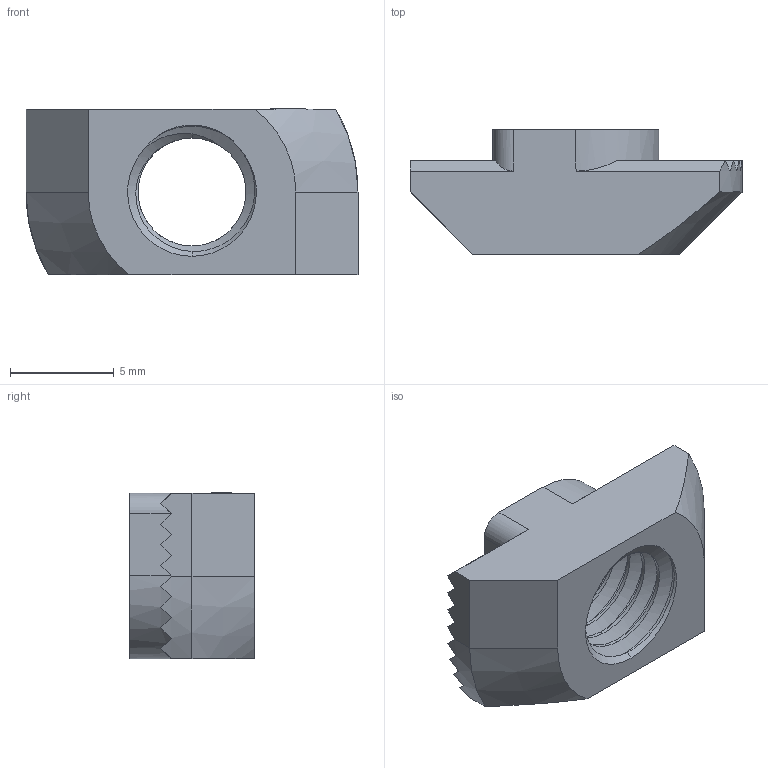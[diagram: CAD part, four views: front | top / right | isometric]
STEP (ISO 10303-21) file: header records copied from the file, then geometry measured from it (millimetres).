
FILE_DESCRIPTION (( 'STEP AP203' ), '1' );
FILE_NAME ('2005.008.003.STEP', '2023-05-24T06:50:09', ( '' ), ( '' ), 'SwSTEP 2.0', 'SolidWorks 2022', '' );
FILE_SCHEMA (( 'CONFIG_CONTROL_DESIGN' ));
Length unit declared in the file: millimetre
Products named in the file (1): 2005.008.003
Bounding box: 16 x 6 x 8 mm (x, y, z)
Volume: 396.6 mm3; surface area: 593.1 mm2
Topology: 1 solids, 1 shells, 71 faces, 197 edges, 128 vertices
Faces by surface type: plane 42, cylinder 18, cone 8, bspline 3
Entity records: 4009 total; most frequent: CARTESIAN_POINT 2322, ORIENTED_EDGE 394, DIRECTION 275, EDGE_CURVE 197, VERTEX_POINT 128, VECTOR 105, LINE 105, AXIS2_PLACEMENT_3D 85
